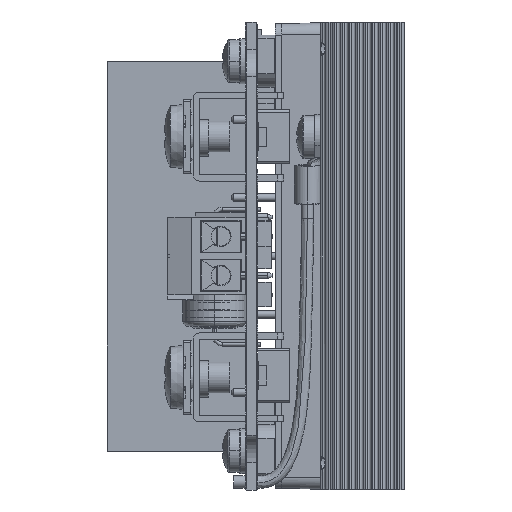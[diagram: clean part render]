
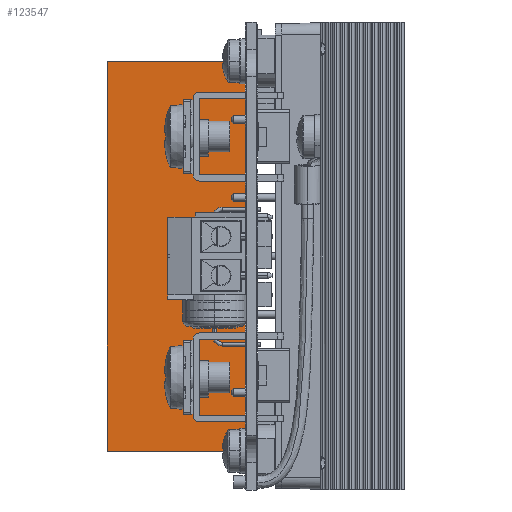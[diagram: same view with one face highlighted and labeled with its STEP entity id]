
A CAD part, left-side view. The second image highlights one B-rep face of the part: STEP entity #123547.
In plain terms, the highlighted planar face has unit normal (-1, 0, 0).
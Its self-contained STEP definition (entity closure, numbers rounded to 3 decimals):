
#1034 = DIRECTION ( 'NONE',  ( 0., 0., 1. ) ) ;
#1296 = VECTOR ( 'NONE', #1034, 1000. ) ;
#4100 = CARTESIAN_POINT ( 'NONE',  ( -20.56, 24.9, 25.357 ) ) ;
#7074 = LINE ( 'NONE', #4100, #107225 ) ;
#7996 = DIRECTION ( 'NONE',  ( 0., 0., 1. ) ) ;
#8802 = FACE_OUTER_BOUND ( 'NONE', #32867, .T. ) ;
#9896 = AXIS2_PLACEMENT_3D ( 'NONE', #108082, #119547, #97110 ) ;
#12339 = EDGE_CURVE ( 'NONE', #55072, #125769, #137143, .T. ) ;
#13727 = ORIENTED_EDGE ( 'NONE', *, *, #12339, .F. ) ;
#14280 = EDGE_CURVE ( 'NONE', #119213, #55072, #89046, .T. ) ;
#15232 = EDGE_CURVE ( 'NONE', #119213, #22938, #118883, .T. ) ;
#22381 = CARTESIAN_POINT ( 'NONE',  ( -20.56, 15.9, 25.357 ) ) ;
#22938 = VERTEX_POINT ( 'NONE', #22381 ) ;
#29686 = CARTESIAN_POINT ( 'NONE',  ( -20.56, 33.9, 25.357 ) ) ;
#32867 = EDGE_LOOP ( 'NONE', ( #81153, #13727, #93564, #56796 ) ) ;
#38516 = VECTOR ( 'NONE', #7996, 1000. ) ;
#48007 = CARTESIAN_POINT ( 'NONE',  ( -20.56, 24.9, -25.443 ) ) ;
#53840 = CARTESIAN_POINT ( 'NONE',  ( -20.56, 15.9, -0.043 ) ) ;
#53956 = CARTESIAN_POINT ( 'NONE',  ( -20.56, 33.9, -25.443 ) ) ;
#55072 = VERTEX_POINT ( 'NONE', #53956 ) ;
#56796 = ORIENTED_EDGE ( 'NONE', *, *, #15232, .T. ) ;
#62258 = VECTOR ( 'NONE', #127866, 1000. ) ;
#81153 = ORIENTED_EDGE ( 'NONE', *, *, #127025, .T. ) ;
#89046 = LINE ( 'NONE', #48007, #62258 ) ;
#93564 = ORIENTED_EDGE ( 'NONE', *, *, #14280, .F. ) ;
#97110 = DIRECTION ( 'NONE',  ( 0., 0., -1. ) ) ;
#98899 = CARTESIAN_POINT ( 'NONE',  ( -20.56, 15.9, -25.443 ) ) ;
#107225 = VECTOR ( 'NONE', #116432, 1000. ) ;
#108082 = CARTESIAN_POINT ( 'NONE',  ( -20.56, 15.9, 25.357 ) ) ;
#116432 = DIRECTION ( 'NONE',  ( 0., 1., 0. ) ) ;
#118883 = LINE ( 'NONE', #53840, #38516 ) ;
#119213 = VERTEX_POINT ( 'NONE', #98899 ) ;
#119547 = DIRECTION ( 'NONE',  ( 1., 0., 0. ) ) ;
#123547 = ADVANCED_FACE ( 'NONE', ( #8802 ), #142069, .F. ) ;
#125769 = VERTEX_POINT ( 'NONE', #29686 ) ;
#127025 = EDGE_CURVE ( 'NONE', #22938, #125769, #7074, .T. ) ;
#127866 = DIRECTION ( 'NONE',  ( 0., 1., 0. ) ) ;
#137143 = LINE ( 'NONE', #137858, #1296 ) ;
#137858 = CARTESIAN_POINT ( 'NONE',  ( -20.56, 33.9, -0.043 ) ) ;
#142069 = PLANE ( 'NONE',  #9896 ) ;
